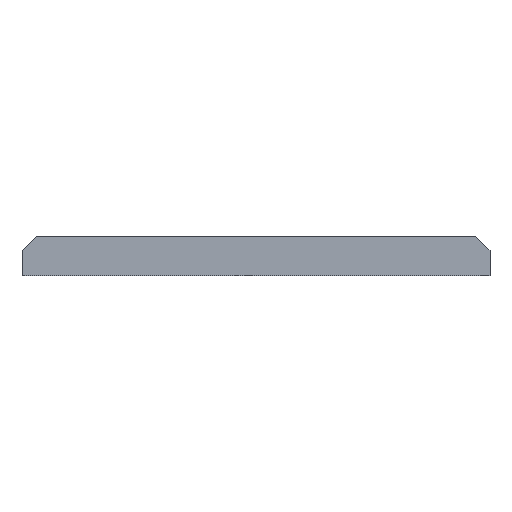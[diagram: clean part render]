
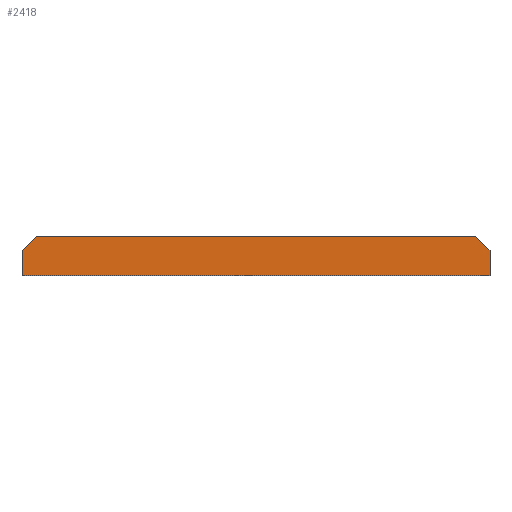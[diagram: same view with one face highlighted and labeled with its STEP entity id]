
A CAD part, left-side view. The second image highlights one B-rep face of the part: STEP entity #2418.
In plain terms, the highlighted planar face has unit normal (-1, 0, 0) as drawn and (1, 0, 0) by its records, which use the part's own axes.
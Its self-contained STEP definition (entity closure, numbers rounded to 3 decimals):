
#124=PLANE('',#2636);
#277=FACE_OUTER_BOUND('',#427,.T.);
#427=EDGE_LOOP('',(#2236,#2237,#2238,#2239,#2240,#2241));
#499=LINE('',#3512,#761);
#664=LINE('',#3921,#926);
#670=LINE('',#3932,#932);
#679=LINE('',#3950,#941);
#686=LINE('',#3958,#948);
#688=LINE('',#3963,#950);
#761=VECTOR('',#2808,10.);
#926=VECTOR('',#3199,10.);
#932=VECTOR('',#3207,10.);
#941=VECTOR('',#3222,10.);
#948=VECTOR('',#3231,10.);
#950=VECTOR('',#3239,10.);
#1111=VERTEX_POINT('',#3509);
#1112=VERTEX_POINT('',#3511);
#1242=VERTEX_POINT('',#3919);
#1243=VERTEX_POINT('',#3920);
#1247=VERTEX_POINT('',#3930);
#1253=VERTEX_POINT('',#3949);
#1343=EDGE_CURVE('',#1112,#1111,#499,.T.);
#1550=EDGE_CURVE('',#1242,#1243,#664,.T.);
#1556=EDGE_CURVE('',#1242,#1247,#670,.T.);
#1565=EDGE_CURVE('',#1112,#1253,#679,.T.);
#1572=EDGE_CURVE('',#1253,#1247,#686,.T.);
#1574=EDGE_CURVE('',#1243,#1111,#688,.T.);
#2236=ORIENTED_EDGE('',*,*,#1343,.T.);
#2237=ORIENTED_EDGE('',*,*,#1574,.F.);
#2238=ORIENTED_EDGE('',*,*,#1550,.F.);
#2239=ORIENTED_EDGE('',*,*,#1556,.T.);
#2240=ORIENTED_EDGE('',*,*,#1572,.F.);
#2241=ORIENTED_EDGE('',*,*,#1565,.F.);
#2418=ADVANCED_FACE('',(#277),#124,.T.);
#2636=AXIS2_PLACEMENT_3D('',#4002,#3295,#3296);
#2808=DIRECTION('',(0.,-1.,0.));
#3199=DIRECTION('',(0.,-0.707,0.707));
#3207=DIRECTION('',(0.,1.,0.));
#3222=DIRECTION('',(0.,0.,-1.));
#3231=DIRECTION('',(0.,-0.707,-0.707));
#3239=DIRECTION('',(0.,0.,1.));
#3295=DIRECTION('center_axis',(1.,0.,0.));
#3296=DIRECTION('ref_axis',(0.,0.,-1.));
#3509=CARTESIAN_POINT('',(66.336,-34.957,17.2));
#3511=CARTESIAN_POINT('',(66.336,30.68,17.2));
#3512=CARTESIAN_POINT('',(66.336,-11.638,17.2));
#3919=CARTESIAN_POINT('',(66.336,-32.958,11.6));
#3920=CARTESIAN_POINT('',(66.336,-34.957,13.599));
#3921=CARTESIAN_POINT('',(66.336,-28.253,6.895));
#3930=CARTESIAN_POINT('',(66.336,28.681,11.6));
#3932=CARTESIAN_POINT('',(66.336,-9.138,11.6));
#3949=CARTESIAN_POINT('',(66.336,30.68,13.599));
#3950=CARTESIAN_POINT('',(66.336,30.68,14.6));
#3958=CARTESIAN_POINT('',(66.336,20.476,3.395));
#3963=CARTESIAN_POINT('',(66.336,-34.957,14.6));
#4002=CARTESIAN_POINT('Origin',(66.336,-9.138,14.6));
